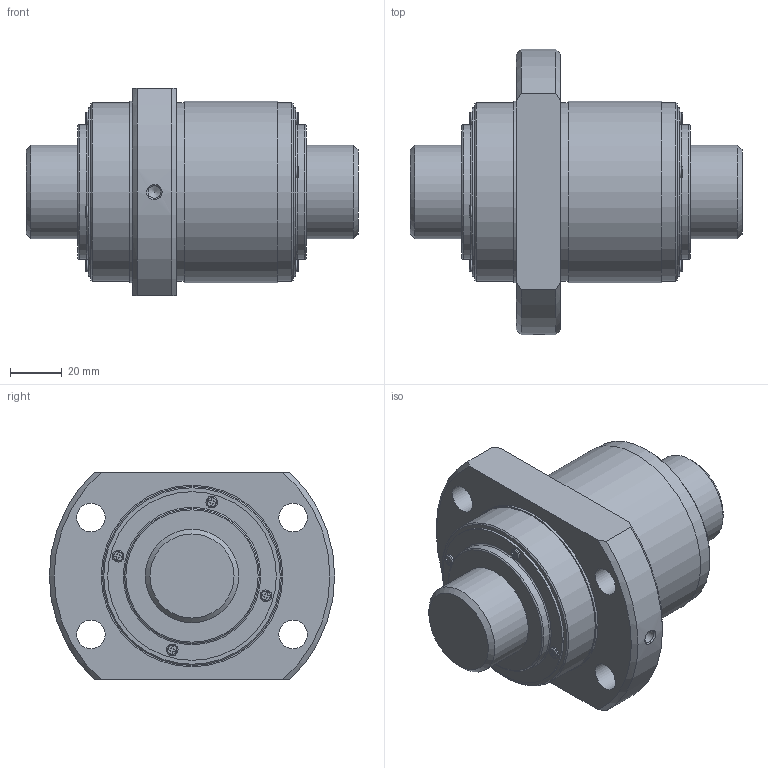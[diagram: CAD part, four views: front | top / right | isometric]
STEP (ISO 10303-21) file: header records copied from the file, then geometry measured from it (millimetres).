
FILE_DESCRIPTION(/* description */ ('STEP AP203'),/* implementation_level */ '2;1');
FILE_NAME(/* name */ 'BLK3620-5.6ZZ+128LC7T_000',/* time_stamp */ '2025-06-11T06:29:42+02:00',/* author */ ('License CC BY-ND 4.0'),/* organization */ ('CADENAS'),/* preprocessor_version */ 'ST-DEVELOPER v19.3',/* originating_system */ 'PARTsolutions',/* authorisation */ ' ');
FILE_SCHEMA (('CONFIG_CONTROL_DESIGN'));
Length unit declared in the file: millimetre
Products named in the file (3): BLK3620-5.6ZZ+128LC7T_000; BLK3620-5.60ZZ0 Shaft; BLK3620-5.6ZZ Nut
Assembly tree (2 placements, depth 2):
  BLK3620-5.6ZZ+128LC7T_000
    BLK3620-5.60ZZ0 Shaft
    BLK3620-5.6ZZ Nut
Bounding box: 128 x 110 x 80 mm (x, y, z)
Volume: 424019.2 mm3; surface area: 62167.9 mm2
Topology: 2 solids, 2 shells, 207 faces, 517 edges, 339 vertices
Faces by surface type: plane 127, cylinder 58, torus 12, cone 10
Full cylindrical faces by diameter (mm): 4.54 x8, 4.917 x1, 11 x4, 36 x2, 52 x2, 65 x2, 69 x3, 70 x2
Entity records: 6038 total; most frequent: CARTESIAN_POINT 1055, DIRECTION 1020, ORIENTED_EDGE 946, EDGE_CURVE 473, AXIS2_PLACEMENT_3D 346, VERTEX_POINT 338, LINE 328, VECTOR 328
